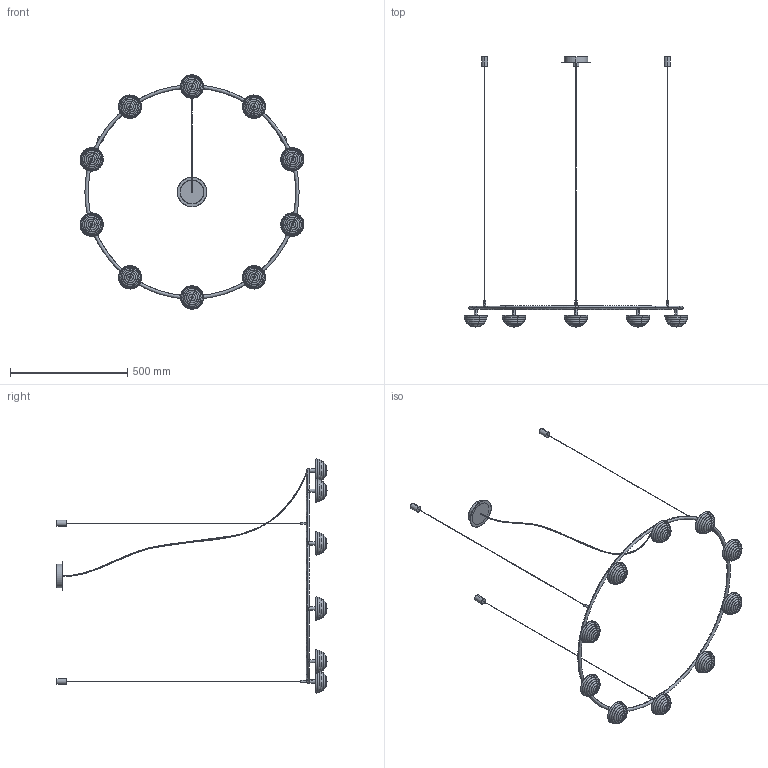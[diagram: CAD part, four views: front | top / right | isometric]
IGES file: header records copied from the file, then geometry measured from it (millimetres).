
Start section: SolidWorks IGES file using analytic representation for surfaces
Global section: file name: C:\Users\Agustin\Desktop\ARNOLD\2024 SEPTIEMBRE\2D\HADO\2D-3D C1331_10\HADO_C1331_10.IGS; native system: SolidWorks 2018; preprocessor: SolidWorks 2018; author: Agustin; date: 240918.101518; units: millimetre
Bounding box: 955.34 x 1152 x 999.45 mm (x, y, z)
Surface area: 502006.6 mm2 (no closed solid volume)
Topology: 0 solids, 0 shells, 346 faces, 5796 edges, 5784 vertices
Faces by surface type: bspline 224, revolution 122
